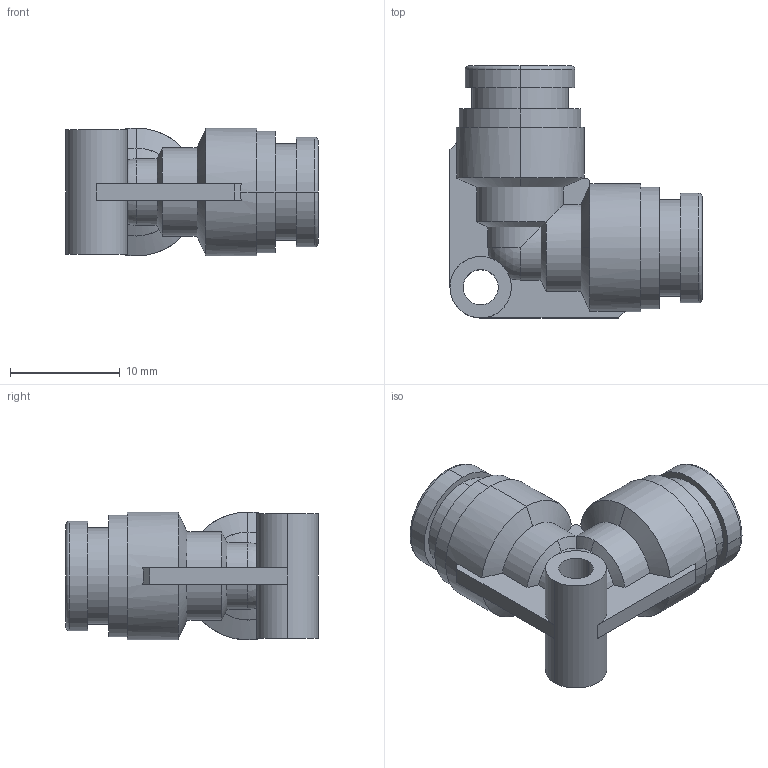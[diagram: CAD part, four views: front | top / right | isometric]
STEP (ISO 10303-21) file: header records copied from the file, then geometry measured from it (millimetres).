
FILE_DESCRIPTION (( 'STEP AP214' ), '1' );
FILE_NAME ('KQG2L06-00.step.step', '2022-08-22T16:13:59', ( '' ), ( '' ), 'SwSTEP 2.0', 'SolidWorks 2022', '' );
FILE_SCHEMA (( 'AUTOMOTIVE_DESIGN' ));
Length unit declared in the file: millimetre
Products named in the file (2): KQG2L06-00.step; KQG2L06-00.step_KQG2 Male Elbow 00_06
Assembly tree (1 placements, depth 2):
  KQG2L06-00.step
    KQG2L06-00.step_KQG2 Male Elbow 00_06
Bounding box: 23 x 23 x 11.67 mm (x, y, z)
Volume: 2112.3 mm3; surface area: 2132.7 mm2
Topology: 1 solids, 1 shells, 78 faces, 188 edges, 120 vertices
Faces by surface type: cylinder 36, plane 24, cone 12, torus 4, sphere 2
Entity records: 2419 total; most frequent: CARTESIAN_POINT 489, DIRECTION 428, ORIENTED_EDGE 376, EDGE_CURVE 188, AXIS2_PLACEMENT_3D 181, VERTEX_POINT 120, CIRCLE 99, EDGE_LOOP 88
